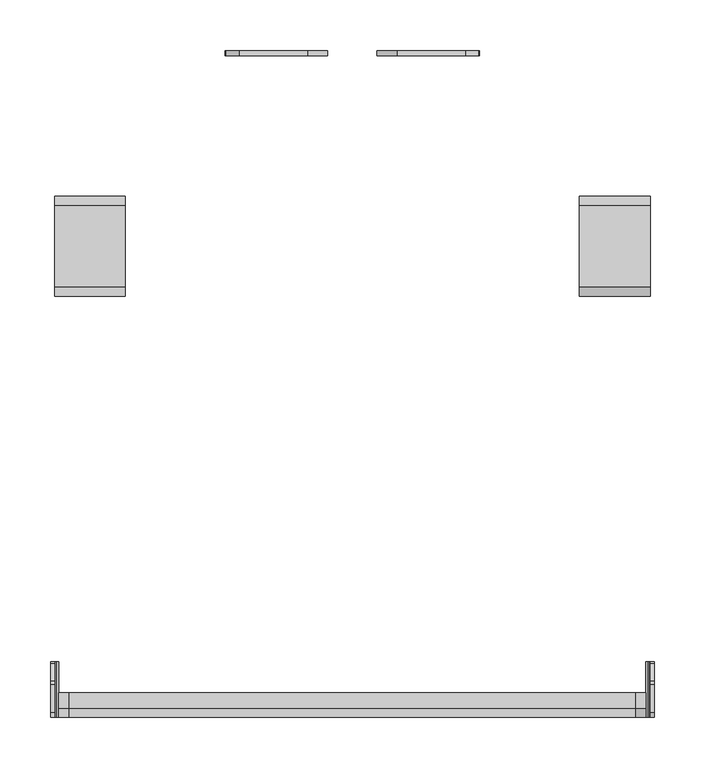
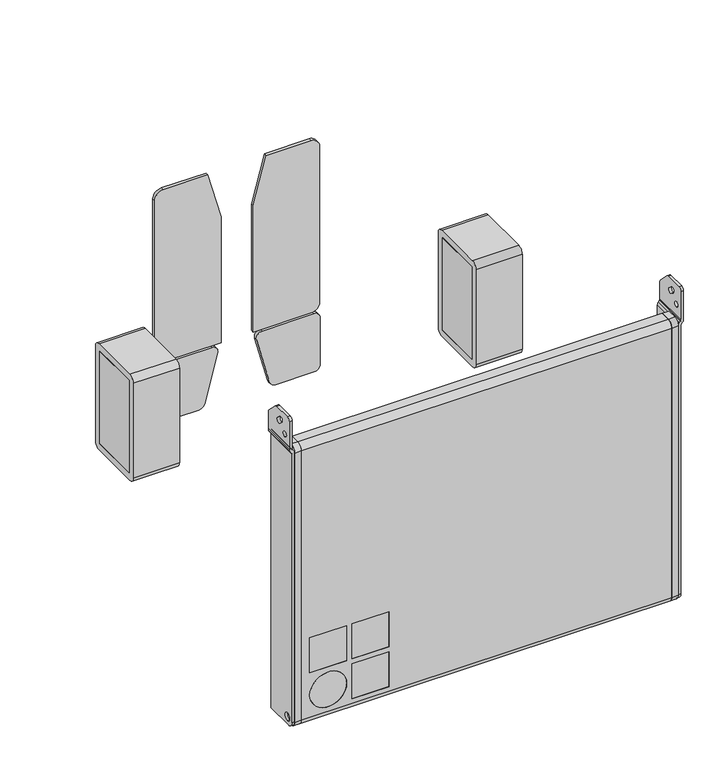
"""IFC4 building model written with IfcOpenShell, lengths in millimetres: proxy geometry, d&b CL-Series CCLi-SUB : CCLi-SUB."""

from ifc_helpers import new_model, si_unit, point, frame, frame_2d, origin, place, context, project, spatial, polyline, circle_curve, trimmed, segment, composite_curve, outline, extrude, source, transform, mapped, element, save
from ifc_brep_helpers import plane_surface, cylinder_surface, revolved_surface, advanced_brep


def communication_devices_898eba8c(model_context):
    return source(origin(), model_context, "Body", "SolidModel", [
        extrude(outline(polyline([(2725.0, 367.1505973), (2725.0, 444.1505973), (2795.0, 444.1505973), (2795.0, 367.1505973), (2725.0, 367.1505973)])), frame((0.0, 0.0, 156.2312164), z_axis=(0.0, 0.0, 1.0), x_axis=(1.0, 0.0, 0.0)), (0.0, 0.0, 1.0), 148.3375673),
        extrude(outline(composite_curve([segment(trimmed(circle_curve(frame_2d((446.2505973, 306.2)), 9.0), [point((446.2505973, 315.2))], [point((455.2505973, 306.2))], False, "CARTESIAN"), True, "CONTINUOUS"), segment(polyline([(455.2505973, 306.2), (455.2505973, 154.2)]), True, "CONTINUOUS"), segment(trimmed(circle_curve(frame_2d((446.2505973, 154.2)), 9.0), [point((455.2505973, 154.2))], [point((446.2505973, 145.2))], False, "CARTESIAN"), True, "CONTINUOUS"), segment(polyline([(446.2505973, 145.2), (365.2505973, 145.2)]), True, "CONTINUOUS"), segment(trimmed(circle_curve(frame_2d((365.2505973, 154.2)), 9.0), [point((365.2505973, 145.2))], [point((356.2505973, 154.2))], False, "CARTESIAN"), True, "CONTINUOUS"), segment(polyline([(356.2505973, 154.2), (356.2505973, 306.2)]), True, "CONTINUOUS"), segment(trimmed(circle_curve(frame_2d((365.2505973, 306.2)), 9.0), [point((356.2505973, 306.2))], [point((365.2505973, 315.2))], False, "CARTESIAN"), True, "CONTINUOUS"), segment(polyline([(365.2505973, 315.2), (446.2505973, 315.2)]), True, "CONTINUOUS")], self_intersect=False), holes=[polyline([(367.1505973, 304.5687836), (367.1505973, 156.2312164), (444.1505973, 156.2312164), (444.1505973, 304.5687836), (367.1505973, 304.5687836)])]), frame((2725.0, 0.0, 0.0), z_axis=(1.0, 0.0, 0.0), x_axis=(0.0, 1.0, 0.0)), (0.0, 0.0, 1.0), 70.0),
        extrude(outline(polyline([(2275.0, 444.1505973), (2275.0, 367.1505973), (2205.0, 367.1505973), (2205.0, 444.1505973), (2275.0, 444.1505973)])), frame((0.0, 0.0, 156.2312164), z_axis=(0.0, 0.0, 1.0), x_axis=(1.0, 0.0, 0.0)), (0.0, 0.0, 1.0), 148.3375673),
        extrude(outline(composite_curve([segment(polyline([(-60.7494027, 14.0), (-60.7494027, 446.0)]), True, "CONTINUOUS"), segment(trimmed(circle_curve(frame_2d((-51.7494027, 446.0)), 9.0), [point((-60.7494027, 446.0))], [point((-51.7494027, 455.0))], False, "CARTESIAN"), True, "CONTINUOUS"), segment(polyline([(-51.7494027, 455.0), (-36.5494027, 455.0), (-36.5494027, 5.0), (-51.7494027, 5.0)]), True, "CONTINUOUS"), segment(trimmed(circle_curve(frame_2d((-51.7494027, 14.0)), 9.0), [point((-51.7494027, 5.0))], [point((-60.7494027, 14.0))], False, "CARTESIAN"), True, "CONTINUOUS")], self_intersect=False)), frame((2781.0, 0.0, 0.0), z_axis=(1.0, 0.0, 0.0), x_axis=(0.0, 1.0, 0.0)), (0.0, 0.0, 1.0), 10.0),
        extrude(outline(composite_curve([segment(polyline([(-60.7494027, 14.0), (-60.7494027, 446.0)]), True, "CONTINUOUS"), segment(trimmed(circle_curve(frame_2d((-51.7494027, 446.0)), 9.0), [point((-60.7494027, 446.0))], [point((-51.7494027, 455.0))], False, "CARTESIAN"), True, "CONTINUOUS"), segment(polyline([(-51.7494027, 455.0), (-36.5494027, 455.0), (-36.5494027, 5.0), (-51.7494027, 5.0)]), True, "CONTINUOUS"), segment(trimmed(circle_curve(frame_2d((-51.7494027, 14.0)), 9.0), [point((-51.7494027, 5.0))], [point((-60.7494027, 14.0))], False, "CARTESIAN"), True, "CONTINUOUS")], self_intersect=False)), frame((2209.0, 0.0, 0.0), z_axis=(1.0, 0.0, 0.0), x_axis=(0.0, 1.0, 0.0)), (0.0, 0.0, 1.0), 10.0),
        extrude(outline(composite_curve([segment(polyline([(129.0, 2617.0), (129.0, 2538.0890284)]), True, "CONTINUOUS"), segment(trimmed(circle_curve(frame_2d((120.0, 2538.0890284)), 9.0), [point((129.0, 2538.0890284))], [point((117.6706286, 2529.3956959))], False, "CARTESIAN"), True, "CONTINUOUS"), segment(polyline([(117.6706286, 2529.3956959), (42.6706286, 2549.4918854)]), True, "CONTINUOUS"), segment(trimmed(circle_curve(frame_2d((45.0, 2558.1852178)), 9.0), [point((42.6706286, 2549.4918854))], [point((36.0, 2558.1852178))], False, "CARTESIAN"), True, "CONTINUOUS"), segment(polyline([(36.0, 2558.1852178), (36.0, 2617.0)]), True, "CONTINUOUS"), segment(trimmed(circle_curve(frame_2d((45.0, 2617.0)), 9.0), [point((36.0, 2617.0))], [point((45.0, 2626.0))], False, "CARTESIAN"), True, "CONTINUOUS"), segment(polyline([(45.0, 2626.0), (120.0, 2626.0)]), True, "CONTINUOUS"), segment(trimmed(circle_curve(frame_2d((120.0, 2617.0)), 9.0), [point((120.0, 2626.0))], [point((129.0, 2617.0))], False, "CARTESIAN"), True, "CONTINUOUS")], self_intersect=False)), frame((0.0, 594.4505973, 0.0), z_axis=(0.0, 1.0, 0.0), x_axis=(0.0, 0.0, 1.0)), (0.0, 0.0, 1.0), 5.0),
        extrude(outline(composite_curve([segment(trimmed(circle_curve(frame_2d((120.0, 2383.0)), 9.0), [point((129.0, 2383.0))], [point((120.0, 2374.0))], False, "CARTESIAN"), True, "CONTINUOUS"), segment(polyline([(120.0, 2374.0), (45.0, 2374.0)]), True, "CONTINUOUS"), segment(trimmed(circle_curve(frame_2d((45.0, 2383.0)), 9.0), [point((45.0, 2374.0))], [point((36.0, 2383.0))], False, "CARTESIAN"), True, "CONTINUOUS"), segment(polyline([(36.0, 2383.0), (36.0, 2441.8147822)]), True, "CONTINUOUS"), segment(trimmed(circle_curve(frame_2d((45.0, 2441.8147822)), 9.0), [point((36.0, 2441.8147822))], [point((42.6706286, 2450.5081146))], False, "CARTESIAN"), True, "CONTINUOUS"), segment(polyline([(42.6706286, 2450.5081146), (117.6706286, 2470.6043041)]), True, "CONTINUOUS"), segment(trimmed(circle_curve(frame_2d((120.0, 2461.9109716)), 9.0), [point((117.6706286, 2470.6043041))], [point((129.0, 2461.9109716))], False, "CARTESIAN"), True, "CONTINUOUS"), segment(polyline([(129.0, 2461.9109716), (129.0, 2383.0)]), True, "CONTINUOUS")], self_intersect=False)), frame((0.0, 594.4505973, 0.0), z_axis=(0.0, 1.0, 0.0), x_axis=(0.0, 0.0, 1.0)), (0.0, 0.0, 1.0), 5.0),
        extrude(outline(composite_curve([segment(trimmed(circle_curve(frame_2d((446.2505973, 306.2)), 9.0), [point((446.2505973, 315.2))], [point((455.2505973, 306.2))], False, "CARTESIAN"), True, "CONTINUOUS"), segment(polyline([(455.2505973, 306.2), (455.2505973, 154.2)]), True, "CONTINUOUS"), segment(trimmed(circle_curve(frame_2d((446.2505973, 154.2)), 9.0), [point((455.2505973, 154.2))], [point((446.2505973, 145.2))], False, "CARTESIAN"), True, "CONTINUOUS"), segment(polyline([(446.2505973, 145.2), (365.2505973, 145.2)]), True, "CONTINUOUS"), segment(trimmed(circle_curve(frame_2d((365.2505973, 154.2)), 9.0), [point((365.2505973, 145.2))], [point((356.2505973, 154.2))], False, "CARTESIAN"), True, "CONTINUOUS"), segment(polyline([(356.2505973, 154.2), (356.2505973, 306.2)]), True, "CONTINUOUS"), segment(trimmed(circle_curve(frame_2d((365.2505973, 306.2)), 9.0), [point((356.2505973, 306.2))], [point((365.2505973, 315.2))], False, "CARTESIAN"), True, "CONTINUOUS"), segment(polyline([(365.2505973, 315.2), (446.2505973, 315.2)]), True, "CONTINUOUS")], self_intersect=False), holes=[polyline([(367.1505973, 304.5687836), (367.1505973, 156.2312164), (444.1505973, 156.2312164), (444.1505973, 304.5687836), (367.1505973, 304.5687836)])]), frame((2205.0, 0.0, 0.0), z_axis=(1.0, 0.0, 0.0), x_axis=(0.0, 1.0, 0.0)), (0.0, 0.0, 1.0), 70.0),
        advanced_brep(
        [(2781.0, -60.7494027, 14.0), (2781.0, -51.7494027, 5.0), (2781.0, -36.5494027, 5.0), (2781.0, -36.5494027, 455.0), (2781.0, -51.7494027, 455.0), (2781.0, -60.7494027, 446.0), (2219.0, -60.7494027, 14.0), (2219.0, -60.7494027, 446.0), (2219.0, -51.7494027, 455.0), (2219.0, -36.5494027, 455.0), (2219.0, -36.5494027, 5.0), (2219.0, -51.7494027, 5.0), (2288.0239358, -60.7494027, 141.5), (2288.0239358, -60.7494027, 85.5), (2232.0239358, -60.7494027, 85.5), (2232.0239358, -60.7494027, 141.5), (2352.0239358, -60.7494027, 141.5), (2352.0239358, -60.7494027, 85.5), (2296.0239358, -60.7494027, 85.5), (2296.0239358, -60.7494027, 141.5), (2352.0239358, -60.7494027, 77.5), (2352.0239358, -60.7494027, 21.5), (2296.0239358, -60.7494027, 21.5), (2296.0239358, -60.7494027, 77.5), (2288.0239358, -60.7494027, 49.5), (2232.0239358, -60.7494027, 49.5), (2288.0239358, -50.7494027, 141.5), (2232.0239358, -50.7494027, 141.5), (2232.0239358, -50.7494027, 85.5), (2288.0239358, -50.7494027, 85.5), (2352.0239358, -50.7494027, 141.5), (2296.0239358, -50.7494027, 141.5), (2296.0239358, -50.7494027, 85.5), (2352.0239358, -50.7494027, 85.5), (2352.0239358, -50.7494027, 77.5), (2296.0239358, -50.7494027, 77.5), (2296.0239358, -50.7494027, 21.5), (2352.0239358, -50.7494027, 21.5), (2288.0239358, -50.7494027, 49.5), (2232.0239358, -50.7494027, 49.5)],
        [
            (0, 1, circle_curve(frame((2781.0, -51.7494027, 14.0), z_axis=(1.0, 0.0, 0.0), x_axis=(0.0, -1.0, 0.0)), 9.0)),
            (1, 2),
            (2, 3),
            (3, 4),
            (4, 5, circle_curve(frame((2781.0, -51.7494027, 446.0), z_axis=(1.0, 0.0, 0.0), x_axis=(0.0, -1.0, 0.0)), 9.0)),
            (5, 0),
            (6, 7),
            (7, 8, circle_curve(frame((2219.0, -51.7494027, 446.0), z_axis=(-1.0, 0.0, 0.0), x_axis=(0.0, -1.0, 0.0)), 9.0)),
            (8, 9),
            (9, 10),
            (10, 11),
            (11, 6, circle_curve(frame((2219.0, -51.7494027, 14.0), z_axis=(-1.0, 0.0, 0.0), x_axis=(0.0, -1.0, 0.0)), 9.0)),
            (0, 6),
            (11, 1),
            (10, 2),
            (9, 3),
            (8, 4),
            (7, 5),
            (12, 13),
            (13, 14),
            (14, 15),
            (15, 12),
            (16, 17),
            (17, 18),
            (18, 19),
            (19, 16),
            (20, 21),
            (21, 22),
            (22, 23),
            (23, 20),
            (24, 25, circle_curve(frame((2260.0239358, -60.7494027, 49.5), z_axis=(0.0, 1.0, 0.0), x_axis=(-1.0, 0.0, 0.0)), 28.0)),
            (25, 24, circle_curve(frame((2260.0239358, -60.7494027, 49.5), z_axis=(0.0, 1.0, 0.0), x_axis=(-1.0, 0.0, 0.0)), 28.0)),
            (26, 27),
            (27, 28),
            (28, 29),
            (29, 26),
            (30, 31),
            (31, 32),
            (32, 33),
            (33, 30),
            (34, 35),
            (35, 36),
            (36, 37),
            (37, 34),
            (38, 39, circle_curve(frame((2260.0239358, -50.7494027, 49.5), z_axis=(0.0, -1.0, 0.0), x_axis=(-1.0, 0.0, 0.0)), 28.0)),
            (39, 38, circle_curve(frame((2260.0239358, -50.7494027, 49.5), z_axis=(0.0, -1.0, 0.0), x_axis=(-1.0, 0.0, 0.0)), 28.0)),
            (29, 13),
            (12, 26),
            (28, 14),
            (27, 15),
            (33, 17),
            (16, 30),
            (32, 18),
            (31, 19),
            (37, 21),
            (20, 34),
            (36, 22),
            (35, 23),
            (39, 25),
            (24, 38),
        ],
        [
            plane_surface(frame((2781.0, -60.7494027, 14.0), z_axis=(1.0, 0.0, 0.0), x_axis=(0.0, 0.0, -1.0))),
            plane_surface(frame((2219.0, -60.7494027, 14.0), z_axis=(-1.0, 0.0, 0.0), x_axis=(0.0, 0.0, 1.0))),
            cylinder_surface(frame((2219.0, -51.7494027, 14.0), z_axis=(1.0, 0.0, 0.0), x_axis=(0.0, -1.0, 0.0)), 9.0),
            plane_surface(frame((2781.0, -51.7494027, 5.0), z_axis=(0.0, 0.0, -1.0), x_axis=(-1.0, 0.0, 0.0))),
            plane_surface(frame((2781.0, -36.5494027, 5.0), z_axis=(0.0, 1.0, 0.0), x_axis=(-1.0, 0.0, 0.0))),
            plane_surface(frame((2781.0, -36.5494027, 455.0), z_axis=(0.0, 0.0, 1.0), x_axis=(-1.0, 0.0, 0.0))),
            cylinder_surface(frame((2219.0, -51.7494027, 446.0), z_axis=(1.0, 0.0, 0.0), x_axis=(0.0, -1.0, 0.0)), 9.0),
            plane_surface(frame((2781.0, -60.7494027, 446.0), z_axis=(0.0, -1.0, 0.0), x_axis=(-1.0, 0.0, 0.0))),
            plane_surface(frame((2288.0239358, -50.7494027, 131.0), z_axis=(0.0, -1.0, 0.0), x_axis=(0.0, 0.0, -1.0))),
            plane_surface(frame((2288.0239358, -50.7494027, 141.5), z_axis=(-1.0, 0.0, 0.0), x_axis=(0.0, -1.0, 0.0))),
            plane_surface(frame((2288.0239358, -50.7494027, 85.5), z_axis=(0.0, 0.0, 1.0), x_axis=(0.0, -1.0, 0.0))),
            plane_surface(frame((2232.0239358, -50.7494027, 85.5), z_axis=(1.0, 0.0, 0.0), x_axis=(0.0, -1.0, 0.0))),
            plane_surface(frame((2232.0239358, -50.7494027, 141.5), z_axis=(0.0, 0.0, -1.0), x_axis=(0.0, -1.0, 0.0))),
            plane_surface(frame((2352.0239358, -50.7494027, 141.5), z_axis=(-1.0, 0.0, 0.0), x_axis=(0.0, -1.0, 0.0))),
            plane_surface(frame((2352.0239358, -50.7494027, 85.5), z_axis=(0.0, 0.0, 1.0), x_axis=(0.0, -1.0, 0.0))),
            plane_surface(frame((2296.0239358, -50.7494027, 85.5), z_axis=(1.0, 0.0, 0.0), x_axis=(0.0, -1.0, 0.0))),
            plane_surface(frame((2296.0239358, -50.7494027, 141.5), z_axis=(0.0, 0.0, -1.0), x_axis=(0.0, -1.0, 0.0))),
            plane_surface(frame((2352.0239358, -50.7494027, 77.5), z_axis=(-1.0, 0.0, 0.0), x_axis=(0.0, -1.0, 0.0))),
            plane_surface(frame((2352.0239358, -50.7494027, 21.5), z_axis=(0.0, 0.0, 1.0), x_axis=(0.0, -1.0, 0.0))),
            plane_surface(frame((2296.0239358, -50.7494027, 21.5), z_axis=(1.0, 0.0, 0.0), x_axis=(0.0, -1.0, 0.0))),
            plane_surface(frame((2296.0239358, -50.7494027, 77.5), z_axis=(0.0, 0.0, -1.0), x_axis=(0.0, -1.0, 0.0))),
            revolved_surface(polyline([(2232.0239358, -50.7494027, 49.5), (2232.0239358, -60.7494027, 49.5)]), (2260.0239358, -60.7494027, 49.5), (0.0, 1.0, 0.0)),
        ],
        [
            (0, [[1, 2, 3, 4, 5, 6]]),
            (1, [[7, 8, 9, 10, 11, 12]]),
            (2, [[-1, 13, -12, 14]]),
            (3, [[-2, -14, -11, 15]]),
            (4, [[-3, -15, -10, 16]]),
            (5, [[-4, -16, -9, 17]]),
            (6, [[-5, -17, -8, 18]]),
            (7, [[-6, -18, -7, -13], [19, 20, 21, 22], [23, 24, 25, 26], [27, 28, 29, 30], [31, 32]]),
            (8, [[33, 34, 35, 36]]),
            (8, [[37, 38, 39, 40]]),
            (8, [[41, 42, 43, 44]]),
            (8, [[45, 46]]),
            (9, [[-36, 47, -19, 48]]),
            (10, [[-35, 49, -20, -47]]),
            (11, [[-34, 50, -21, -49]]),
            (12, [[-33, -48, -22, -50]]),
            (13, [[-40, 51, -23, 52]]),
            (14, [[-39, 53, -24, -51]]),
            (15, [[-38, 54, -25, -53]]),
            (16, [[-37, -52, -26, -54]]),
            (17, [[-44, 55, -27, 56]]),
            (18, [[-43, 57, -28, -55]]),
            (19, [[-42, 58, -29, -57]]),
            (20, [[-41, -56, -30, -58]]),
            (21, [[-46, 59, -31, 60]]),
            (21, [[-45, -60, -32, -59]]),
        ],
    ),
        advanced_brep(
        [(2799.0, -5.7494027, 455.0), (2799.0, -5.7494027, 482.0289322), (2799.0, -7.2138688, 485.5644661), (2799.0, -24.2849366, 502.6355339), (2799.0, -27.8204705, 504.1), (2799.0, -55.7494027, 504.1), (2799.0, -60.7494027, 499.1), (2799.0, -60.7494027, 455.0), (2799.0, -48.7494027, 467.95), (2799.0, -48.7494027, 476.25), (2799.0, -29.9813277, 487.2980874), (2799.0, -35.7860122, 481.493403), (2799.0, -41.4010544, 486.5492098), (2799.0, -35.59637, 492.3538942), (2795.0, -60.7494027, 455.0), (2795.0, -60.7494027, 499.1), (2795.0, -55.7494027, 504.1), (2795.0, -27.8204705, 504.1), (2795.0, -24.2849366, 502.6355339), (2795.0, -7.2138688, 485.5644661), (2795.0, -5.7494027, 482.0289322), (2795.0, -5.7494027, 455.0), (2795.0, -48.7494027, 467.95), (2795.0, -48.7494027, 476.25), (2795.0, -29.9813277, 487.2980874), (2795.0, -35.59637, 492.3538942), (2795.0, -41.4010544, 486.5492098), (2795.0, -35.7860122, 481.493403), (2794.7591137, -60.7494027, 452.9903947), (2794.3478613, -60.7494027, 452.1774978), (2792.6376889, -60.7494027, 450.1393937), (2791.0, -60.7494027, 445.6398804), (2791.0, -60.7494027, 15.1), (2795.0, -60.7494027, 15.1), (2795.0, -60.7494027, 445.6398804), (2795.7018667, -60.7494027, 447.5682432), (2797.4120391, -60.7494027, 449.6063474), (2798.6457961, -60.7494027, 452.0450379), (2798.6457961, -5.7494027, 452.0450379), (2797.4120391, -5.7494027, 449.6063474), (2795.7018667, -5.7494027, 447.5682432), (2795.0, -5.7494027, 445.6398804), (2795.0, -5.7494027, 6.1), (2791.0, -5.7494027, 6.1), (2791.0, -5.7494027, 445.6398804), (2792.6376889, -5.7494027, 450.1393937), (2794.3478613, -5.7494027, 452.1774978), (2794.7591137, -5.7494027, 452.9903947), (2791.0, -51.7494027, 6.1), (2791.0, -48.7494027, 11.35), (2791.0, -48.7494027, 23.85), (2795.0, -51.7494027, 6.1), (2795.0, -48.7494027, 11.35), (2795.0, -48.7494027, 23.85)],
        [
            (0, 1),
            (1, 2, circle_curve(frame((2799.0, -10.7494027, 482.0289322), z_axis=(1.0, 0.0, 0.0), x_axis=(0.0, 0.0, 1.0)), 5.0)),
            (2, 3),
            (3, 4, circle_curve(frame((2799.0, -27.8204705, 499.1), z_axis=(1.0, 0.0, 0.0), x_axis=(0.0, 0.0, 1.0)), 5.0)),
            (4, 5),
            (5, 6, circle_curve(frame((2799.0, -55.7494027, 499.1), z_axis=(1.0, 0.0, 0.0), x_axis=(0.0, 0.0, 1.0)), 5.0)),
            (6, 7),
            (7, 0),
            (8, 9, circle_curve(frame((2799.0, -48.7494027, 472.1), z_axis=(-1.0, 0.0, 0.0), x_axis=(0.0, 0.0, 1.0)), 4.15)),
            (9, 8, circle_curve(frame((2799.0, -48.7494027, 472.1), z_axis=(-1.0, 0.0, 0.0), x_axis=(0.0, 0.0, 1.0)), 4.15)),
            (10, 11, circle_curve(frame((2799.0, -33.0357753, 484.5478505), z_axis=(-1.0, 0.0, 0.0), x_axis=(0.0, 0.0, 1.0)), 4.1101646)),
            (11, 12),
            (12, 13, circle_curve(frame((2799.0, -37.8632339, 488.8160737), z_axis=(-1.0, 0.0, 0.0), x_axis=(0.0, 0.0, 1.0)), 4.201767)),
            (13, 10),
            (14, 15),
            (15, 16, circle_curve(frame((2795.0, -55.7494027, 499.1), z_axis=(-1.0, 0.0, 0.0), x_axis=(0.0, 0.0, 1.0)), 5.0)),
            (16, 17),
            (17, 18, circle_curve(frame((2795.0, -27.8204705, 499.1), z_axis=(-1.0, 0.0, 0.0), x_axis=(0.0, 0.0, 1.0)), 5.0)),
            (18, 19),
            (19, 20, circle_curve(frame((2795.0, -10.7494027, 482.0289322), z_axis=(-1.0, 0.0, 0.0), x_axis=(0.0, 0.0, 1.0)), 5.0)),
            (20, 21),
            (21, 14),
            (22, 23, circle_curve(frame((2795.0, -48.7494027, 472.1), z_axis=(1.0, 0.0, 0.0), x_axis=(0.0, 0.0, 1.0)), 4.15)),
            (23, 22, circle_curve(frame((2795.0, -48.7494027, 472.1), z_axis=(1.0, 0.0, 0.0), x_axis=(0.0, 0.0, 1.0)), 4.15)),
            (24, 25),
            (25, 26, circle_curve(frame((2795.0, -37.8632339, 488.8160737), z_axis=(1.0, 0.0, 0.0), x_axis=(0.0, 0.0, 1.0)), 4.201767)),
            (26, 27),
            (27, 24, circle_curve(frame((2795.0, -33.0357753, 484.5478505), z_axis=(1.0, 0.0, 0.0), x_axis=(0.0, 0.0, 1.0)), 4.1101646)),
            (6, 15),
            (14, 28, circle_curve(frame((2786.496944, -60.7494027, 455.0), z_axis=(0.0, 1.0, 0.0), x_axis=(-1.0, 0.0, 0.0)), 8.503056)),
            (28, 29, circle_curve(frame((2792.8157724, -60.7494027, 453.463073), z_axis=(0.0, 1.0, 0.0), x_axis=(-1.0, 0.0, 0.0)), 2.0)),
            (29, 30),
            (30, 31, circle_curve(frame((2798.0, -60.7494027, 445.6398804), z_axis=(0.0, -1.0, 0.0), x_axis=(-1.0, 0.0, 0.0)), 7.0)),
            (31, 32),
            (32, 33),
            (33, 34),
            (34, 35, circle_curve(frame((2798.0, -60.7494027, 445.6398804), z_axis=(0.0, 1.0, 0.0), x_axis=(-1.0, 0.0, 0.0)), 3.0)),
            (35, 36),
            (36, 37, circle_curve(frame((2792.8157724, -60.7494027, 453.463073), z_axis=(0.0, -1.0, 0.0), x_axis=(-1.0, 0.0, 0.0)), 6.0)),
            (37, 7, circle_curve(frame((2786.496944, -60.7494027, 455.0), z_axis=(0.0, -1.0, 0.0), x_axis=(-1.0, 0.0, 0.0)), 12.503056)),
            (9, 23),
            (22, 8),
            (13, 25),
            (24, 10),
            (12, 26),
            (11, 27),
            (0, 38, circle_curve(frame((2786.496944, -5.7494027, 455.0), z_axis=(0.0, 1.0, 0.0), x_axis=(-1.0, 0.0, 0.0)), 12.503056)),
            (38, 39, circle_curve(frame((2792.8157724, -5.7494027, 453.463073), z_axis=(0.0, 1.0, 0.0), x_axis=(-1.0, 0.0, 0.0)), 6.0)),
            (39, 40),
            (40, 41, circle_curve(frame((2798.0, -5.7494027, 445.6398804), z_axis=(0.0, -1.0, 0.0), x_axis=(-1.0, 0.0, 0.0)), 3.0)),
            (41, 42),
            (42, 43),
            (43, 44),
            (44, 45, circle_curve(frame((2798.0, -5.7494027, 445.6398804), z_axis=(0.0, 1.0, 0.0), x_axis=(-1.0, 0.0, 0.0)), 7.0)),
            (45, 46),
            (46, 47, circle_curve(frame((2792.8157724, -5.7494027, 453.463073), z_axis=(0.0, -1.0, 0.0), x_axis=(-1.0, 0.0, 0.0)), 2.0)),
            (47, 21, circle_curve(frame((2786.496944, -5.7494027, 455.0), z_axis=(0.0, -1.0, 0.0), x_axis=(-1.0, 0.0, 0.0)), 8.503056)),
            (20, 1),
            (19, 2),
            (18, 3),
            (17, 4),
            (16, 5),
            (31, 44),
            (43, 48),
            (48, 32, circle_curve(frame((2791.0, -51.7494027, 15.1), z_axis=(-1.0, 0.0, 0.0), x_axis=(0.0, 0.0, 1.0)), 9.0)),
            (49, 50, circle_curve(frame((2791.0, -48.7494027, 17.6), z_axis=(1.0, 0.0, 0.0), x_axis=(0.0, 0.0, 1.0)), 6.25)),
            (50, 49, circle_curve(frame((2791.0, -48.7494027, 17.6), z_axis=(1.0, 0.0, 0.0), x_axis=(0.0, 0.0, 1.0)), 6.25)),
            (33, 51, circle_curve(frame((2795.0, -51.7494027, 15.1), z_axis=(1.0, 0.0, 0.0), x_axis=(0.0, 0.0, 1.0)), 9.0)),
            (51, 42),
            (41, 34),
            (52, 53, circle_curve(frame((2795.0, -48.7494027, 17.6), z_axis=(-1.0, 0.0, 0.0), x_axis=(0.0, 0.0, 1.0)), 6.25)),
            (53, 52, circle_curve(frame((2795.0, -48.7494027, 17.6), z_axis=(-1.0, 0.0, 0.0), x_axis=(0.0, 0.0, 1.0)), 6.25)),
            (49, 52),
            (53, 50),
            (48, 51),
            (30, 45),
            (29, 46),
            (47, 28),
            (37, 38),
            (36, 39),
            (35, 40),
        ],
        [
            plane_surface(frame((2799.0, -48.7494027, 476.25), z_axis=(1.0, 0.0, 0.0), x_axis=(0.0, 1.0, 0.0))),
            plane_surface(frame((2795.0, -48.7494027, 476.25), z_axis=(-1.0, 0.0, 0.0), x_axis=(0.0, -1.0, 0.0))),
            plane_surface(frame((2795.0, -60.7494027, 455.0), z_axis=(0.0, -1.0, 0.0), x_axis=(1.0, 0.0, 0.0))),
            revolved_surface(polyline([(2799.0, -48.7494027, 476.25), (2795.0, -48.7494027, 476.25)]), (2799.0, -48.7494027, 472.1), (1.0, 0.0, 0.0)),
            plane_surface(frame((2795.0, -29.9813277, 487.2980874), z_axis=(0.0, -0.6691306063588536, -0.7431448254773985), x_axis=(1.0, 0.0, 0.0))),
            revolved_surface(polyline([(2799.0, -37.8632339, 493.0178407), (2795.0, -37.8632339, 493.0178407)]), (2795.0, -37.8632339, 488.8160737), (1.0, 0.0, 0.0)),
            plane_surface(frame((2795.0, -41.4010544, 486.5492098), z_axis=(0.0, 0.6691306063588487, 0.7431448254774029), x_axis=(1.0, 0.0, 0.0))),
            revolved_surface(polyline([(2799.0, -33.0357753, 488.6580151), (2795.0, -33.0357753, 488.6580151)]), (2795.0, -33.0357753, 484.5478505), (1.0, 0.0, 0.0)),
            plane_surface(frame((2795.0, -5.7494027, 482.0289322), z_axis=(0.0, 1.0, 0.0), x_axis=(1.0, 0.0, 0.0))),
            cylinder_surface(frame((2795.0, -10.7494027, 482.0289322), z_axis=(-1.0, 0.0, 0.0), x_axis=(0.0, 0.0, 1.0)), 5.0),
            plane_surface(frame((2795.0, -24.2849366, 502.6355339), z_axis=(0.0, 0.7071067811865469, 0.7071067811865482), x_axis=(1.0, 0.0, 0.0))),
            cylinder_surface(frame((2795.0, -27.8204705, 499.1), z_axis=(-1.0, 0.0, 0.0), x_axis=(0.0, 0.0, 1.0)), 5.0),
            plane_surface(frame((2795.0, -55.7494027, 504.1), z_axis=(0.0, 0.0, 1.0), x_axis=(1.0, 0.0, 0.0))),
            cylinder_surface(frame((2795.0, -55.7494027, 499.1), z_axis=(-1.0, 0.0, 0.0), x_axis=(0.0, 0.0, 1.0)), 5.0),
            plane_surface(frame((2791.0, -48.7494027, 23.85), z_axis=(-1.0, 0.0, 0.0), x_axis=(0.0, -1.0, 0.0))),
            plane_surface(frame((2795.0, -48.7494027, 23.85), z_axis=(1.0, 0.0, 0.0), x_axis=(0.0, 1.0, 0.0))),
            revolved_surface(polyline([(2795.0, -48.7494027, 23.85), (2791.0, -48.7494027, 23.85)]), (2795.0, -48.7494027, 17.6), (1.0, 0.0, 0.0)),
            cylinder_surface(frame((2795.0, -51.7494027, 15.1), z_axis=(-1.0, 0.0, 0.0), x_axis=(0.0, 0.0, 1.0)), 9.0),
            plane_surface(frame((2791.0, -5.7494027, 6.1), z_axis=(0.0, 0.0, -1.0), x_axis=(1.0, 0.0, 0.0))),
            cylinder_surface(frame((2798.0, -5.7494027, 445.6398804), z_axis=(0.0, -1.0, 0.0), x_axis=(-1.0, 0.0, 0.0)), 7.0),
            plane_surface(frame((2794.3478613, -60.7494027, 452.1774978), z_axis=(-0.7660444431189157, 0.0, 0.6427876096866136), x_axis=(0.0, 1.0, 0.0))),
            revolved_surface(polyline([(2777.993888, -5.7494027, 455.0), (2777.993888, -60.7494027, 455.0)]), (2786.496944, -5.7494027, 455.0), (0.0, 1.0, 0.0)),
            revolved_surface(polyline([(2790.8157724, -5.7494027, 453.463073), (2790.8157724, -60.7494027, 453.463073)]), (2792.8157724, -5.7494027, 453.463073), (0.0, 1.0, 0.0)),
            cylinder_surface(frame((2786.496944, -5.7494027, 455.0), z_axis=(0.0, -1.0, 0.0), x_axis=(-1.0, 0.0, 0.0)), 12.503056),
            cylinder_surface(frame((2792.8157724, -5.7494027, 453.463073), z_axis=(0.0, -1.0, 0.0), x_axis=(-1.0, 0.0, 0.0)), 6.0),
            plane_surface(frame((2795.7018667, -60.7494027, 447.5682432), z_axis=(0.7660444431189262, 0.0, -0.6427876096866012), x_axis=(0.0, 1.0, 0.0))),
            revolved_surface(polyline([(2795.0, -5.7494027, 445.6398804), (2795.0, -60.7494027, 445.6398804)]), (2798.0, -5.7494027, 445.6398804), (0.0, 1.0, 0.0)),
        ],
        [
            (0, [[1, 2, 3, 4, 5, 6, 7, 8], [9, 10], [11, 12, 13, 14]]),
            (1, [[15, 16, 17, 18, 19, 20, 21, 22], [23, 24], [25, 26, 27, 28]]),
            (2, [[-7, 29, -15, 30, 31, 32, 33, 34, 35, 36, 37, 38, 39, 40]]),
            (3, [[-10, 41, -23, 42]]),
            (3, [[-9, -42, -24, -41]]),
            (4, [[-14, 43, -25, 44]]),
            (5, [[-13, 45, -26, -43]]),
            (6, [[-12, 46, -27, -45]]),
            (7, [[-11, -44, -28, -46]]),
            (8, [[-1, 47, 48, 49, 50, 51, 52, 53, 54, 55, 56, 57, -21, 58]]),
            (9, [[-2, -58, -20, 59]]),
            (10, [[-3, -59, -19, 60]]),
            (11, [[-4, -60, -18, 61]]),
            (12, [[-5, -61, -17, 62]]),
            (13, [[-6, -62, -16, -29]]),
            (14, [[-34, 63, -53, 64, 65], [66, 67]]),
            (15, [[68, 69, -51, 70, -36], [71, 72]]),
            (16, [[-66, 73, -72, 74]]),
            (16, [[-67, -74, -71, -73]]),
            (17, [[-65, 75, -68, -35]]),
            (18, [[-64, -52, -69, -75]]),
            (19, [[-33, 76, -54, -63]]),
            (20, [[-32, 77, -55, -76]]),
            (21, [[-30, -22, -57, 78]]),
            (22, [[-31, -78, -56, -77]]),
            (23, [[-40, 79, -47, -8]]),
            (24, [[-39, 80, -48, -79]]),
            (25, [[-38, 81, -49, -80]]),
            (26, [[-37, -70, -50, -81]]),
        ],
    ),
        advanced_brep(
        [(2201.0, -60.7494027, 455.0), (2201.0, -60.7494027, 499.1), (2201.0, -55.7494027, 504.1), (2201.0, -27.8204705, 504.1), (2201.0, -24.2849366, 502.6355339), (2201.0, -7.2138688, 485.5644661), (2201.0, -5.7494027, 482.0289322), (2201.0, -5.7494027, 455.0), (2201.0, -48.7494027, 467.95), (2201.0, -48.7494027, 476.25), (2201.0, -29.9813277, 487.2980874), (2201.0, -35.59637, 492.3538942), (2201.0, -41.4010544, 486.5492098), (2201.0, -35.7860122, 481.493403), (2205.0, -5.7494027, 455.0), (2205.0, -5.7494027, 482.0289322), (2205.0, -7.2138688, 485.5644661), (2205.0, -24.2849366, 502.6355339), (2205.0, -27.8204705, 504.1), (2205.0, -55.7494027, 504.1), (2205.0, -60.7494027, 499.1), (2205.0, -60.7494027, 455.0), (2205.0, -48.7494027, 467.95), (2205.0, -48.7494027, 476.25), (2205.0, -29.9813277, 487.2980874), (2205.0, -35.7860122, 481.493403), (2205.0, -41.4010544, 486.5492098), (2205.0, -35.59637, 492.3538942), (2201.3542039, -60.7494027, 452.0450379), (2202.5879609, -60.7494027, 449.6063474), (2204.2981333, -60.7494027, 447.5682432), (2205.0, -60.7494027, 445.6398804), (2205.0, -60.7494027, 15.1), (2209.0, -60.7494027, 15.1), (2209.0, -60.7494027, 445.6398804), (2207.3623111, -60.7494027, 450.1393937), (2205.6521387, -60.7494027, 452.1774978), (2205.2408863, -60.7494027, 452.9903947), (2205.2408863, -5.7494027, 452.9903947), (2205.6521387, -5.7494027, 452.1774978), (2207.3623111, -5.7494027, 450.1393937), (2209.0, -5.7494027, 445.6398804), (2209.0, -5.7494027, 6.1), (2205.0, -5.7494027, 6.1), (2205.0, -5.7494027, 445.6398804), (2204.2981333, -5.7494027, 447.5682432), (2202.5879609, -5.7494027, 449.6063474), (2201.3542039, -5.7494027, 452.0450379), (2209.0, -51.7494027, 6.1), (2209.0, -48.7494027, 11.35), (2209.0, -48.7494027, 23.85), (2205.0, -51.7494027, 6.1), (2205.0, -48.7494027, 11.35), (2205.0, -48.7494027, 23.85)],
        [
            (0, 1),
            (1, 2, circle_curve(frame((2201.0, -55.7494027, 499.1), z_axis=(-1.0, 0.0, 0.0), x_axis=(0.0, 0.0, 1.0)), 5.0)),
            (2, 3),
            (3, 4, circle_curve(frame((2201.0, -27.8204705, 499.1), z_axis=(-1.0, 0.0, 0.0), x_axis=(0.0, 0.0, 1.0)), 5.0)),
            (4, 5),
            (5, 6, circle_curve(frame((2201.0, -10.7494027, 482.0289322), z_axis=(-1.0, 0.0, 0.0), x_axis=(0.0, 0.0, 1.0)), 5.0)),
            (6, 7),
            (7, 0),
            (8, 9, circle_curve(frame((2201.0, -48.7494027, 472.1), z_axis=(1.0, 0.0, 0.0), x_axis=(0.0, 0.0, 1.0)), 4.15)),
            (9, 8, circle_curve(frame((2201.0, -48.7494027, 472.1), z_axis=(1.0, 0.0, 0.0), x_axis=(0.0, 0.0, 1.0)), 4.15)),
            (10, 11),
            (11, 12, circle_curve(frame((2201.0, -37.8632339, 488.8160737), z_axis=(1.0, 0.0, 0.0), x_axis=(0.0, 0.0, 1.0)), 4.201767)),
            (12, 13),
            (13, 10, circle_curve(frame((2201.0, -33.0357753, 484.5478505), z_axis=(1.0, 0.0, 0.0), x_axis=(0.0, 0.0, 1.0)), 4.1101646)),
            (14, 15),
            (15, 16, circle_curve(frame((2205.0, -10.7494027, 482.0289322), z_axis=(1.0, 0.0, 0.0), x_axis=(0.0, 0.0, 1.0)), 5.0)),
            (16, 17),
            (17, 18, circle_curve(frame((2205.0, -27.8204705, 499.1), z_axis=(1.0, 0.0, 0.0), x_axis=(0.0, 0.0, 1.0)), 5.0)),
            (18, 19),
            (19, 20, circle_curve(frame((2205.0, -55.7494027, 499.1), z_axis=(1.0, 0.0, 0.0), x_axis=(0.0, 0.0, 1.0)), 5.0)),
            (20, 21),
            (21, 14),
            (22, 23, circle_curve(frame((2205.0, -48.7494027, 472.1), z_axis=(-1.0, 0.0, 0.0), x_axis=(0.0, 0.0, 1.0)), 4.15)),
            (23, 22, circle_curve(frame((2205.0, -48.7494027, 472.1), z_axis=(-1.0, 0.0, 0.0), x_axis=(0.0, 0.0, 1.0)), 4.15)),
            (24, 25, circle_curve(frame((2205.0, -33.0357753, 484.5478505), z_axis=(-1.0, 0.0, 0.0), x_axis=(0.0, 0.0, 1.0)), 4.1101646)),
            (25, 26),
            (26, 27, circle_curve(frame((2205.0, -37.8632339, 488.8160737), z_axis=(-1.0, 0.0, 0.0), x_axis=(0.0, 0.0, 1.0)), 4.201767)),
            (27, 24),
            (0, 28, circle_curve(frame((2213.503056, -60.7494027, 455.0), z_axis=(0.0, -1.0, 0.0), x_axis=(1.0, 0.0, 0.0)), 12.503056)),
            (28, 29, circle_curve(frame((2207.1842276, -60.7494027, 453.463073), z_axis=(0.0, -1.0, 0.0), x_axis=(1.0, 0.0, 0.0)), 6.0)),
            (29, 30),
            (30, 31, circle_curve(frame((2202.0, -60.7494027, 445.6398804), z_axis=(0.0, 1.0, 0.0), x_axis=(1.0, 0.0, 0.0)), 3.0)),
            (31, 32),
            (32, 33),
            (33, 34),
            (34, 35, circle_curve(frame((2202.0, -60.7494027, 445.6398804), z_axis=(0.0, -1.0, 0.0), x_axis=(1.0, 0.0, 0.0)), 7.0)),
            (35, 36),
            (36, 37, circle_curve(frame((2207.1842276, -60.7494027, 453.463073), z_axis=(0.0, 1.0, 0.0), x_axis=(1.0, 0.0, 0.0)), 2.0)),
            (37, 21, circle_curve(frame((2213.503056, -60.7494027, 455.0), z_axis=(0.0, 1.0, 0.0), x_axis=(1.0, 0.0, 0.0)), 8.503056)),
            (20, 1),
            (8, 22),
            (23, 9),
            (10, 24),
            (27, 11),
            (26, 12),
            (25, 13),
            (6, 15),
            (14, 38, circle_curve(frame((2213.503056, -5.7494027, 455.0), z_axis=(0.0, -1.0, 0.0), x_axis=(1.0, 0.0, 0.0)), 8.503056)),
            (38, 39, circle_curve(frame((2207.1842276, -5.7494027, 453.463073), z_axis=(0.0, -1.0, 0.0), x_axis=(1.0, 0.0, 0.0)), 2.0)),
            (39, 40),
            (40, 41, circle_curve(frame((2202.0, -5.7494027, 445.6398804), z_axis=(0.0, 1.0, 0.0), x_axis=(1.0, 0.0, 0.0)), 7.0)),
            (41, 42),
            (42, 43),
            (43, 44),
            (44, 45, circle_curve(frame((2202.0, -5.7494027, 445.6398804), z_axis=(0.0, -1.0, 0.0), x_axis=(1.0, 0.0, 0.0)), 3.0)),
            (45, 46),
            (46, 47, circle_curve(frame((2207.1842276, -5.7494027, 453.463073), z_axis=(0.0, 1.0, 0.0), x_axis=(1.0, 0.0, 0.0)), 6.0)),
            (47, 7, circle_curve(frame((2213.503056, -5.7494027, 455.0), z_axis=(0.0, 1.0, 0.0), x_axis=(1.0, 0.0, 0.0)), 12.503056)),
            (5, 16),
            (4, 17),
            (3, 18),
            (2, 19),
            (34, 41),
            (40, 35),
            (39, 36),
            (37, 38),
            (47, 28),
            (46, 29),
            (45, 30),
            (44, 31),
            (33, 48, circle_curve(frame((2209.0, -51.7494027, 15.1), z_axis=(1.0, 0.0, 0.0), x_axis=(0.0, 0.0, 1.0)), 9.0)),
            (48, 42),
            (49, 50, circle_curve(frame((2209.0, -48.7494027, 17.6), z_axis=(-1.0, 0.0, 0.0), x_axis=(0.0, 0.0, 1.0)), 6.25)),
            (50, 49, circle_curve(frame((2209.0, -48.7494027, 17.6), z_axis=(-1.0, 0.0, 0.0), x_axis=(0.0, 0.0, 1.0)), 6.25)),
            (43, 51),
            (51, 32, circle_curve(frame((2205.0, -51.7494027, 15.1), z_axis=(-1.0, 0.0, 0.0), x_axis=(0.0, 0.0, 1.0)), 9.0)),
            (52, 53, circle_curve(frame((2205.0, -48.7494027, 17.6), z_axis=(1.0, 0.0, 0.0), x_axis=(0.0, 0.0, 1.0)), 6.25)),
            (53, 52, circle_curve(frame((2205.0, -48.7494027, 17.6), z_axis=(1.0, 0.0, 0.0), x_axis=(0.0, 0.0, 1.0)), 6.25)),
            (50, 53),
            (52, 49),
            (51, 48),
        ],
        [
            plane_surface(frame((2201.0, -48.7494027, 476.25), z_axis=(-1.0, 0.0, 0.0), x_axis=(0.0, -1.0, 0.0))),
            plane_surface(frame((2205.0, -48.7494027, 476.25), z_axis=(1.0, 0.0, 0.0), x_axis=(0.0, 1.0, 0.0))),
            plane_surface(frame((2205.0, -60.7494027, 499.1), z_axis=(0.0, -1.0, 0.0), x_axis=(-1.0, 0.0, 0.0))),
            revolved_surface(polyline([(2201.0, -48.7494027, 476.25), (2205.0, -48.7494027, 476.25)]), (2201.0, -48.7494027, 472.1), (-1.0, 0.0, 0.0)),
            plane_surface(frame((2205.0, -35.59637, 492.3538942), z_axis=(0.0, -0.6691306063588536, -0.7431448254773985), x_axis=(-1.0, 0.0, 0.0))),
            revolved_surface(polyline([(2201.0, -37.8632339, 493.0178407), (2205.0, -37.8632339, 493.0178407)]), (2205.0, -37.8632339, 488.8160737), (-1.0, 0.0, 0.0)),
            plane_surface(frame((2205.0, -35.7860122, 481.493403), z_axis=(0.0, 0.6691306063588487, 0.7431448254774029), x_axis=(-1.0, 0.0, 0.0))),
            revolved_surface(polyline([(2201.0, -33.0357753, 488.6580151), (2205.0, -33.0357753, 488.6580151)]), (2205.0, -33.0357753, 484.5478505), (-1.0, 0.0, 0.0)),
            plane_surface(frame((2205.0, -5.7494027, 455.0), z_axis=(0.0, 1.0, 0.0), x_axis=(-1.0, 0.0, 0.0))),
            cylinder_surface(frame((2205.0, -10.7494027, 482.0289322), z_axis=(1.0, 0.0, 0.0), x_axis=(0.0, 0.0, 1.0)), 5.0),
            plane_surface(frame((2205.0, -7.2138688, 485.5644661), z_axis=(0.0, 0.7071067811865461, 0.7071067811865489), x_axis=(-1.0, 0.0, 0.0))),
            cylinder_surface(frame((2205.0, -27.8204705, 499.1), z_axis=(1.0, 0.0, 0.0), x_axis=(0.0, 0.0, 1.0)), 5.0),
            plane_surface(frame((2205.0, -27.8204705, 504.1), z_axis=(0.0, 0.0, 1.0), x_axis=(-1.0, 0.0, 0.0))),
            cylinder_surface(frame((2205.0, -55.7494027, 499.1), z_axis=(1.0, 0.0, 0.0), x_axis=(0.0, 0.0, 1.0)), 5.0),
            cylinder_surface(frame((2202.0, -5.7494027, 445.6398804), z_axis=(0.0, -1.0, 0.0), x_axis=(1.0, 0.0, 0.0)), 7.0),
            plane_surface(frame((2207.3623111, -60.7494027, 450.1393937), z_axis=(0.7660444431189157, 0.0, 0.6427876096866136), x_axis=(0.0, 1.0, 0.0))),
            revolved_surface(polyline([(2222.006112, -5.7494027, 455.0), (2222.006112, -60.7494027, 455.0)]), (2213.503056, -5.7494027, 455.0), (0.0, 1.0, 0.0)),
            revolved_surface(polyline([(2209.1842276, -5.7494027, 453.463073), (2209.1842276, -60.7494027, 453.463073)]), (2207.1842276, -5.7494027, 453.463073), (0.0, 1.0, 0.0)),
            cylinder_surface(frame((2213.503056, -5.7494027, 455.0), z_axis=(0.0, -1.0, 0.0), x_axis=(1.0, 0.0, 0.0)), 12.503056),
            cylinder_surface(frame((2207.1842276, -5.7494027, 453.463073), z_axis=(0.0, -1.0, 0.0), x_axis=(1.0, 0.0, 0.0)), 6.0),
            plane_surface(frame((2202.5879609, -60.7494027, 449.6063474), z_axis=(-0.7660444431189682, 0.0, -0.6427876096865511), x_axis=(0.0, 1.0, 0.0))),
            revolved_surface(polyline([(2205.0, -5.7494027, 445.6398804), (2205.0, -60.7494027, 445.6398804)]), (2202.0, -5.7494027, 445.6398804), (0.0, 1.0, 0.0)),
            plane_surface(frame((2209.0, -48.7494027, 23.85), z_axis=(1.0, 0.0, 0.0), x_axis=(0.0, 1.0, 0.0))),
            plane_surface(frame((2205.0, -48.7494027, 23.85), z_axis=(-1.0, 0.0, 0.0), x_axis=(0.0, -1.0, 0.0))),
            revolved_surface(polyline([(2205.0, -48.7494027, 23.85), (2209.0, -48.7494027, 23.85)]), (2205.0, -48.7494027, 17.6), (-1.0, 0.0, 0.0)),
            cylinder_surface(frame((2205.0, -51.7494027, 15.1), z_axis=(1.0, 0.0, 0.0), x_axis=(0.0, 0.0, 1.0)), 9.0),
            plane_surface(frame((2209.0, -51.7494027, 6.1), z_axis=(0.0, 0.0, -1.0), x_axis=(-1.0, 0.0, 0.0))),
        ],
        [
            (0, [[1, 2, 3, 4, 5, 6, 7, 8], [9, 10], [11, 12, 13, 14]]),
            (1, [[15, 16, 17, 18, 19, 20, 21, 22], [23, 24], [25, 26, 27, 28]]),
            (2, [[-1, 29, 30, 31, 32, 33, 34, 35, 36, 37, 38, 39, -21, 40]]),
            (3, [[-9, 41, -24, 42]]),
            (3, [[-10, -42, -23, -41]]),
            (4, [[-11, 43, -28, 44]]),
            (5, [[-12, -44, -27, 45]]),
            (6, [[-13, -45, -26, 46]]),
            (7, [[-14, -46, -25, -43]]),
            (8, [[-7, 47, -15, 48, 49, 50, 51, 52, 53, 54, 55, 56, 57, 58]]),
            (9, [[-6, 59, -16, -47]]),
            (10, [[-5, 60, -17, -59]]),
            (11, [[-4, 61, -18, -60]]),
            (12, [[-3, 62, -19, -61]]),
            (13, [[-2, -40, -20, -62]]),
            (14, [[-36, 63, -51, 64]]),
            (15, [[-37, -64, -50, 65]]),
            (16, [[-39, 66, -48, -22]]),
            (17, [[-38, -65, -49, -66]]),
            (18, [[-29, -8, -58, 67]]),
            (19, [[-30, -67, -57, 68]]),
            (20, [[-31, -68, -56, 69]]),
            (21, [[-32, -69, -55, 70]]),
            (22, [[71, 72, -52, -63, -35], [73, 74]]),
            (23, [[-33, -70, -54, 75, 76], [77, 78]]),
            (24, [[-74, 79, -77, 80]]),
            (24, [[-73, -80, -78, -79]]),
            (25, [[-71, -34, -76, 81]]),
            (26, [[-72, -81, -75, -53]]),
        ],
    ),
        extrude(outline(composite_curve([segment(trimmed(circle_curve(frame_2d((395.0, 2612.0)), 13.0), [point((395.0, 2625.0))], [point((408.0, 2612.0))], False, "CARTESIAN"), True, "CONTINUOUS"), segment(polyline([(408.0, 2612.0), (408.0, 2544.3424624), (334.1404454, 2524.5518543), (132.0, 2524.5518543), (132.0, 2612.0)]), True, "CONTINUOUS"), segment(trimmed(circle_curve(frame_2d((145.0, 2612.0)), 13.0), [point((132.0, 2612.0))], [point((145.0, 2625.0))], False, "CARTESIAN"), True, "CONTINUOUS"), segment(polyline([(145.0, 2625.0), (395.0, 2625.0)]), True, "CONTINUOUS")], self_intersect=False)), frame((0.0, 594.4505973, 0.0), z_axis=(0.0, 1.0, 0.0), x_axis=(0.0, 0.0, 1.0)), (0.0, 0.0, 1.0), 5.0),
        extrude(outline(composite_curve([segment(polyline([(395.0, 2375.0), (145.0, 2375.0)]), True, "CONTINUOUS"), segment(trimmed(circle_curve(frame_2d((145.0, 2388.0)), 13.0), [point((145.0, 2375.0))], [point((132.0, 2388.0))], False, "CARTESIAN"), True, "CONTINUOUS"), segment(polyline([(132.0, 2388.0), (132.0, 2475.4481457), (334.1404454, 2475.4481457), (408.0, 2455.6575376), (408.0, 2388.0)]), True, "CONTINUOUS"), segment(trimmed(circle_curve(frame_2d((395.0, 2388.0)), 13.0), [point((408.0, 2388.0))], [point((395.0, 2375.0))], False, "CARTESIAN"), True, "CONTINUOUS")], self_intersect=False)), frame((0.0, 594.4505973, 0.0), z_axis=(0.0, 1.0, 0.0), x_axis=(0.0, 0.0, 1.0)), (0.0, 0.0, 1.0), 5.0),
        extrude(outline(polyline([(2232.0239358, -50.7494027), (2288.0239358, -50.7494027), (2288.0239358, -60.7494027), (2232.0239358, -60.7494027), (2232.0239358, -50.7494027)])), frame((0.0, 0.0, 85.5), z_axis=(0.0, 0.0, 1.0), x_axis=(1.0, 0.0, 0.0)), (0.0, 0.0, 1.0), 56.0),
        extrude(outline(polyline([(2296.0239358, -50.7494027), (2352.0239358, -50.7494027), (2352.0239358, -60.7494027), (2296.0239358, -60.7494027), (2296.0239358, -50.7494027)])), frame((0.0, 0.0, 85.5), z_axis=(0.0, 0.0, 1.0), x_axis=(1.0, 0.0, 0.0)), (0.0, 0.0, 1.0), 56.0),
        extrude(outline(polyline([(2296.0239358, -50.7494027), (2352.0239358, -50.7494027), (2352.0239358, -60.7494027), (2296.0239358, -60.7494027), (2296.0239358, -50.7494027)])), frame((0.0, 0.0, 21.5), z_axis=(0.0, 0.0, 1.0), x_axis=(1.0, 0.0, 0.0)), (0.0, 0.0, 1.0), 56.0),
        extrude(outline(composite_curve([segment(trimmed(circle_curve(frame_2d((49.5, 2260.0239358)), 28.0), [point((49.5, 2288.0239358))], [point((49.5, 2232.0239358))], False, "CARTESIAN"), True, "CONTINUOUS"), segment(trimmed(circle_curve(frame_2d((49.5, 2260.0239358)), 28.0), [point((49.5, 2232.0239358))], [point((49.5, 2288.0239358))], False, "CARTESIAN"), True, "CONTINUOUS")], self_intersect=False)), frame((0.0, -60.7494027, 0.0), z_axis=(0.0, 1.0, 0.0), x_axis=(0.0, 0.0, 1.0)), (0.0, 0.0, 1.0), 10.0),
    ])


if __name__ == "__main__":
    model = new_model("IFC4")
    model_context = context("Model", 3, world=origin())
    ifc_project = project(units=[si_unit("LENGTHUNIT", "METRE", prefix="MILLI")], contexts=[model_context])
    site = spatial("IfcSite", under=ifc_project)
    building = spatial("IfcBuilding", under=site)
    placement = place(None, origin())
    communication_devices_shape = communication_devices_898eba8c(model_context)
    element("IfcBuildingElementProxy", 1, Name="d&b CL-Series CCLi-SUB : CCLi-SUB", ObjectType="d&b CL-Series CCLi-SUB : CCLi-SUB", at=placement, inside=building, context=model_context, shape_type="MappedRepresentation", body=[
        mapped(communication_devices_shape, transform((0.0, 0.0, 0.0), x_axis=(1.0, 0.0, 0.0), y_axis=(0.0, 1.0, 0.0), z_axis=(0.0, 0.0, 1.0))),
    ])
    save(model, "model.ifc")
